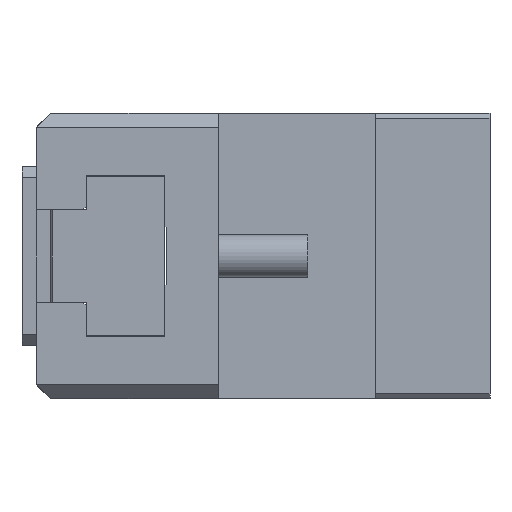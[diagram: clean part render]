
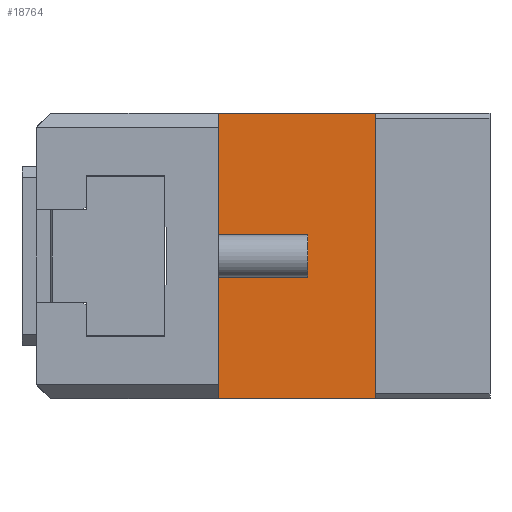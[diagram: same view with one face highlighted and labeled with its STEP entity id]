
A CAD part, left-side view. The second image highlights one B-rep face of the part: STEP entity #18764.
In plain terms, the highlighted planar face has unit normal (-1, 0, 0).
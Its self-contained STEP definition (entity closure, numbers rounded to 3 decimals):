
#181 = VECTOR ( 'NONE', #663, 1000. ) ;
#663 = DIRECTION ( 'NONE',  ( 0., 0., 1. ) ) ;
#675 = AXIS2_PLACEMENT_3D ( 'NONE', #14938, #42047, #18848 ) ;
#6529 = CARTESIAN_POINT ( 'NONE',  ( -70., 44., -40. ) ) ;
#10256 = ORIENTED_EDGE ( 'NONE', *, *, #30868, .T. ) ;
#10273 = LINE ( 'NONE', #12535, #30872 ) ;
#10289 = EDGE_LOOP ( 'NONE', ( #25037, #31487, #44163, #10256 ) ) ;
#11060 = PLANE ( 'NONE',  #675 ) ;
#12535 = CARTESIAN_POINT ( 'NONE',  ( -70., 44., -40. ) ) ;
#13348 = LINE ( 'NONE', #43086, #24858 ) ;
#13926 = VERTEX_POINT ( 'NONE', #37839 ) ;
#14891 = EDGE_CURVE ( 'NONE', #13926, #23429, #37750, .T. ) ;
#14938 = CARTESIAN_POINT ( 'NONE',  ( -70., 44., 40. ) ) ;
#15126 = VERTEX_POINT ( 'NONE', #6529 ) ;
#18285 = CARTESIAN_POINT ( 'NONE',  ( -70., 44., 40. ) ) ;
#18764 = ADVANCED_FACE ( 'NONE', ( #34966 ), #11060, .F. ) ;
#18848 = DIRECTION ( 'NONE',  ( 0., 0., -1. ) ) ;
#19689 = DIRECTION ( 'NONE',  ( 0., -1., 0. ) ) ;
#23429 = VERTEX_POINT ( 'NONE', #42214 ) ;
#24858 = VECTOR ( 'NONE', #19689, 1000. ) ;
#25037 = ORIENTED_EDGE ( 'NONE', *, *, #14891, .T. ) ;
#27383 = CARTESIAN_POINT ( 'NONE',  ( -70., 0., 40. ) ) ;
#29070 = VECTOR ( 'NONE', #42876, 1000. ) ;
#30868 = EDGE_CURVE ( 'NONE', #15126, #13926, #10273, .T. ) ;
#30872 = VECTOR ( 'NONE', #32000, 1000. ) ;
#31191 = CARTESIAN_POINT ( 'NONE',  ( -70., 44., 40. ) ) ;
#31487 = ORIENTED_EDGE ( 'NONE', *, *, #45628, .F. ) ;
#32000 = DIRECTION ( 'NONE',  ( 0., -1., 0. ) ) ;
#33359 = VERTEX_POINT ( 'NONE', #18285 ) ;
#34966 = FACE_OUTER_BOUND ( 'NONE', #10289, .T. ) ;
#36956 = LINE ( 'NONE', #31191, #29070 ) ;
#37750 = LINE ( 'NONE', #27383, #181 ) ;
#37839 = CARTESIAN_POINT ( 'NONE',  ( -70., 0., -40. ) ) ;
#42047 = DIRECTION ( 'NONE',  ( 1., 0., 0. ) ) ;
#42214 = CARTESIAN_POINT ( 'NONE',  ( -70., 0., 40. ) ) ;
#42876 = DIRECTION ( 'NONE',  ( 0., 0., -1. ) ) ;
#43086 = CARTESIAN_POINT ( 'NONE',  ( -70., 44., 40. ) ) ;
#44163 = ORIENTED_EDGE ( 'NONE', *, *, #44522, .T. ) ;
#44522 = EDGE_CURVE ( 'NONE', #33359, #15126, #36956, .T. ) ;
#45628 = EDGE_CURVE ( 'NONE', #33359, #23429, #13348, .T. ) ;
